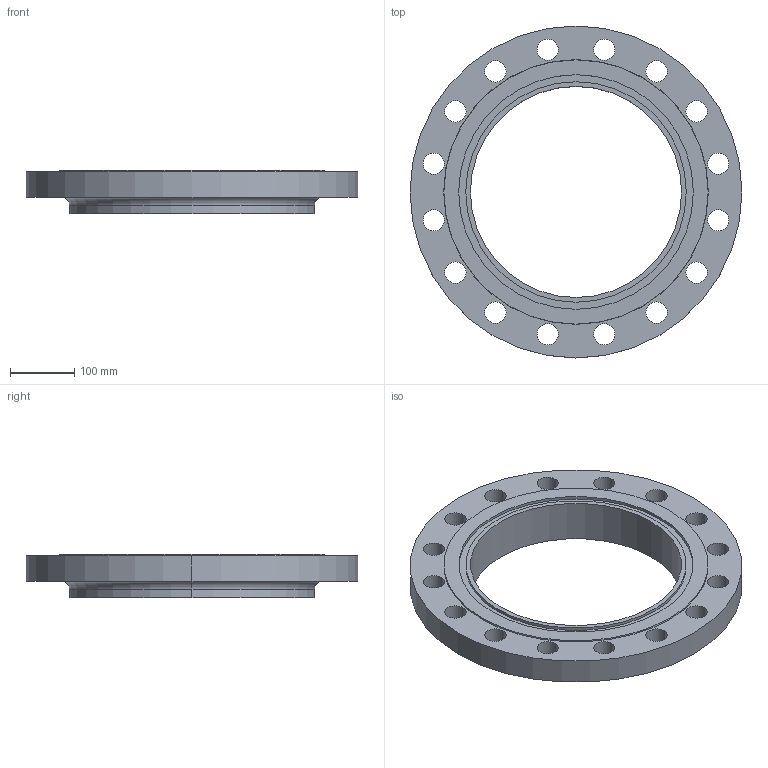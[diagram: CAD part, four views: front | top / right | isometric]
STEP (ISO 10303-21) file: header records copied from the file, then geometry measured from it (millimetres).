
FILE_DESCRIPTION (( 'STEP AP214' ), '1' );
FILE_NAME ('PN40 DN300 Type 12 - Type D Face.STEP', '2019-01-05T20:21:20', ( '' ), ( '' ), 'SwSTEP 2.0', 'SolidWorks 2019', '' );
FILE_SCHEMA (( 'AUTOMOTIVE_DESIGN' ));
Length unit declared in the file: millimetre
Products named in the file (1): PN40 DN300 Type 12 - Type D Face
Bounding box: 515 x 515 x 67 mm (x, y, z)
Volume: 5223204.6 mm3; surface area: 456673.7 mm2
Topology: 1 solids, 1 shells, 52 faces, 136 edges, 90 vertices
Faces by surface type: cylinder 42, plane 6, torus 2, cone 2
Entity records: 1758 total; most frequent: DIRECTION 334, CARTESIAN_POINT 279, ORIENTED_EDGE 272, AXIS2_PLACEMENT_3D 145, EDGE_CURVE 136, CIRCLE 92, VERTEX_POINT 90, EDGE_LOOP 90
